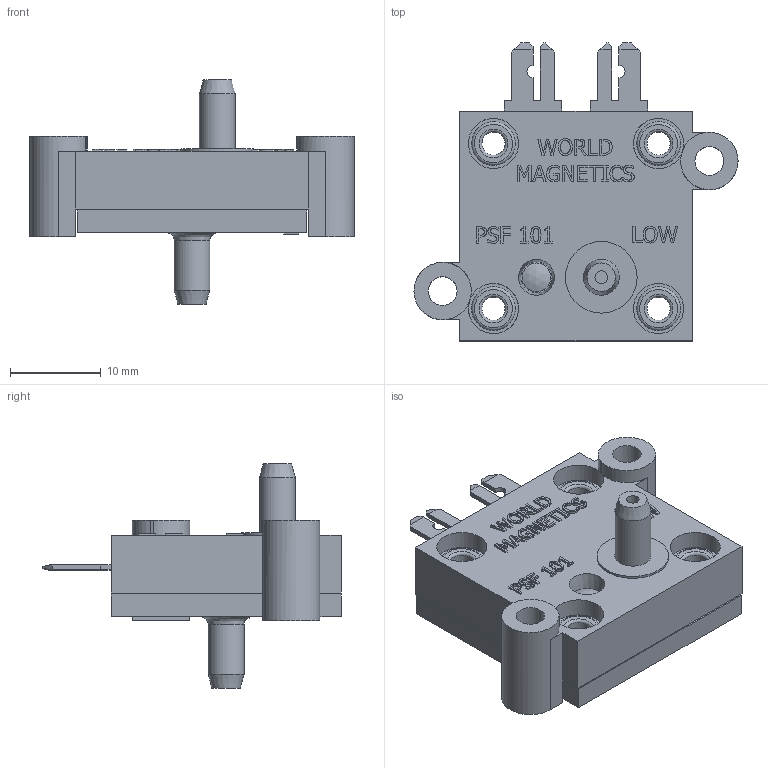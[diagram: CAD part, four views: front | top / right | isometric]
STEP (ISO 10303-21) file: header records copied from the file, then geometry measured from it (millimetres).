
FILE_DESCRIPTION((''),'2;1');
FILE_NAME('G:\DRAWINGS\SWITCH\INVENTOR DRAWINGS\WORLD MAGNETICS SWITCH\WM SALES STP FILES\811X.stp','2011-06-14T09:28:09',('dale'),(''),'Autodesk Inventor 2009','Autodesk Inventor 2009','');
FILE_SCHEMA(('AUTOMOTIVE_DESIGN { 1 0 10303 214 1 1 1 1 }'));
Length unit declared in the file: inch
Products named in the file (7): 811X; 60322-STP; 60094-STP; 60093-STP; 60813-STP; 60193 - .251 THK ROLLED; 60099-STP
Assembly tree (9 placements, depth 2):
  811X
    60322-STP
    60094-STP
    60093-STP
    60813-STP
    60193 - .251 THK ROLLED  x4
    60099-STP
Bounding box: 35.81 x 32.94 x 24.79 mm (x, y, z)
Volume: 6043.4 mm3; surface area: 5695 mm2
Topology: 9 solids, 9 shells, 589 faces, 1499 edges, 989 vertices
Faces by surface type: plane 355, bspline 184, cylinder 29, torus 16, cone 4, sphere 1
Full cylindrical faces by diameter (mm): 1.575 x1, 2.565 x4, 3.073 x4, 3.175 x1, 3.962 x2, 4.572 x4, 4.826 x4, 5.08 x4, 7.925 x1
Entity records: 18103 total; most frequent: CARTESIAN_POINT 5739, ORIENTED_EDGE 2712, DIRECTION 1912, EDGE_CURVE 1356, VECTOR 988, LINE 988, VERTEX_POINT 926, EDGE_LOOP 646
